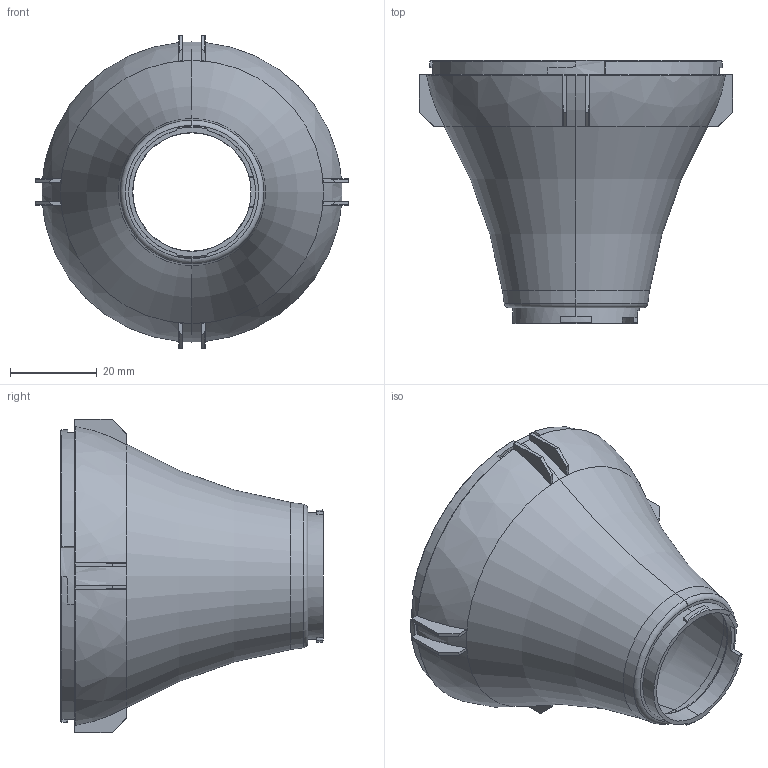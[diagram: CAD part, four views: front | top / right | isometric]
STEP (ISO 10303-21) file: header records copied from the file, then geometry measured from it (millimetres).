
FILE_DESCRIPTION(('FreeCAD Model'),'2;1');
FILE_NAME('Open CASCADE Shape Model','2024-08-30T09:26:13',( 'Lukas Balthasar Pank'),('Astera LED Technology GmbH'), 'Open CASCADE STEP processor 7.6','FreeCAD','Unknown');
FILE_SCHEMA(('AUTOMOTIVE_DESIGN { 1 0 10303 214 1 1 1 1 }'));
Length unit declared in the file: millimetre
Products named in the file (4): FP7-LRF_LunaReflector_3Dstep_V1; LunaReflector; MEC34373-Reflector White Look; Reflector
Assembly tree (3 placements, depth 3):
  FP7-LRF_LunaReflector_3Dstep_V1
    LunaReflector
      MEC34373-Reflector White Look
    Reflector
Bounding box: 72.07 x 60.5 x 72.07 mm (x, y, z)
Volume: 18215.8 mm3; surface area: 29343.7 mm2
Topology: 2 solids, 2 shells, 477 faces, 1309 edges, 845 vertices
Faces by surface type: plane 239, cylinder 77, bspline 59, cone 40, torus 38, sphere 20, revolution 4
Entity records: 16928 total; most frequent: CARTESIAN_POINT 5556, ORIENTED_EDGE 2618, DIRECTION 2049, EDGE_CURVE 1309, VERTEX_POINT 845, AXIS2_PLACEMENT_3D 793, FACE_BOUND 490, EDGE_LOOP 490
